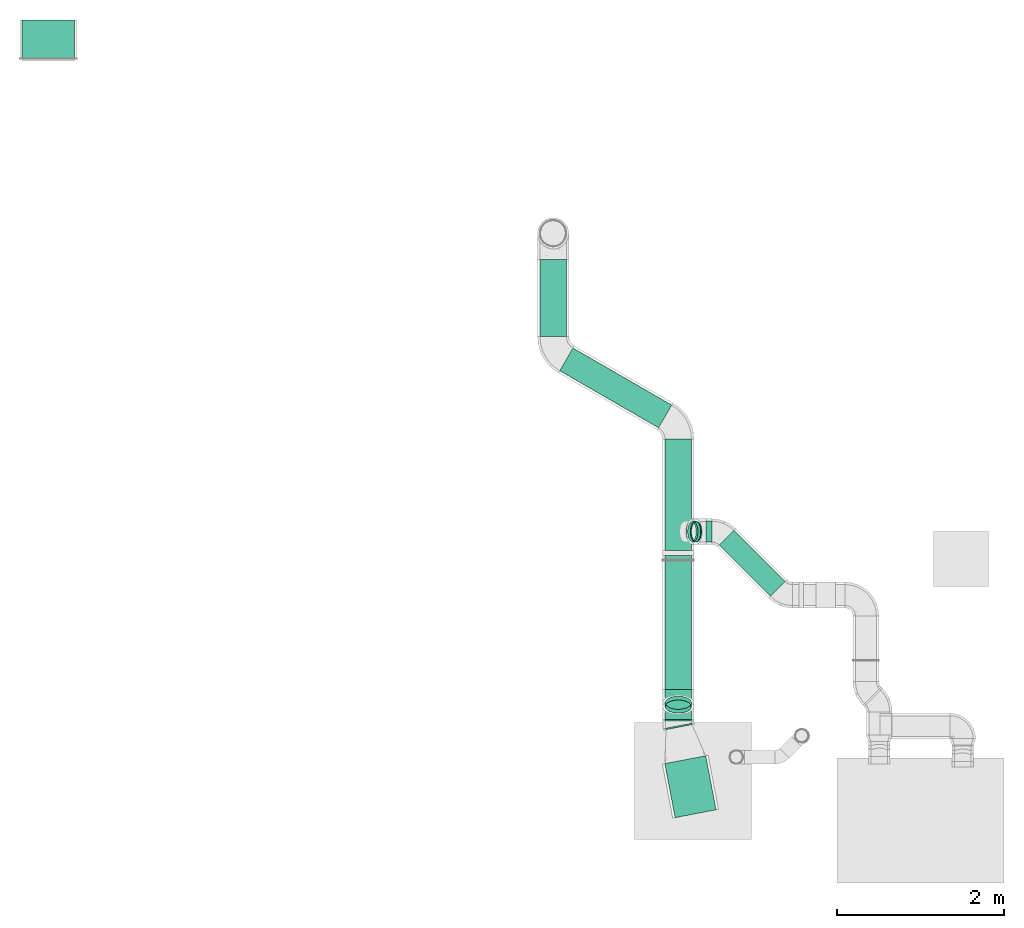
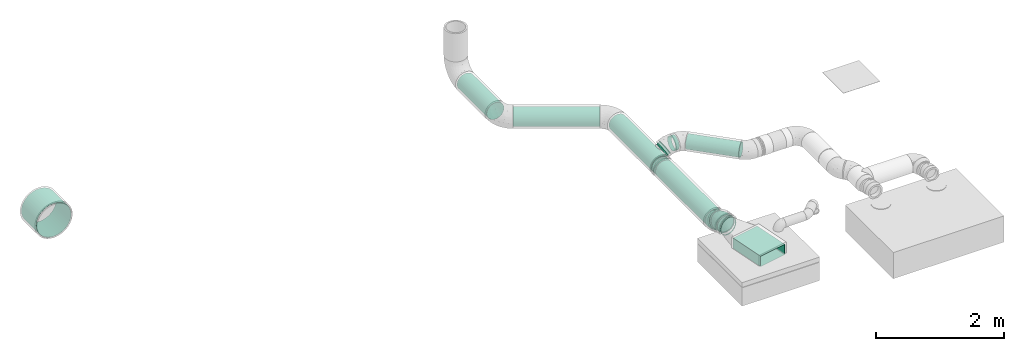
# One storey, part 10 of 21: 14 flow segments, 2 flow fittings.
"""IFC2X3 building model written with IfcOpenShell, lengths in millimetres."""

from ifc_helpers import new_model, entity, si_unit, converted_unit, derived_unit, direction, frame, origin_with_axes, origin_2d_with_axis, place, context, subcontext, project, spatial, hollow_rectangle, hollow_circle, extrude, open_shell, surface_model, source, transform, mapped, type_object, element, save


model = new_model("IFC2X3")

# Units and contexts
model_context = context("Model", 3, precision=0.01, world=frame((0.0, 4.29681676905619e-09, 0.0)), true_north=direction((4.01073788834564e-13, 1.0)))
plan_context = context("Plan", 3, precision=0.01, world=frame((0.0, 4.29681676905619e-09, 0.0)), true_north=direction((4.01073788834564e-13, 1.0)))
body_context = subcontext(model_context, "Body", "Model", "MODEL_VIEW")
ifc_project = project(units=[converted_unit("PLANEANGLEUNIT", "DEGREE", entity("IfcPositiveLengthMeasure", 0.0174532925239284), si_unit("PLANEANGLEUNIT", "RADIAN"), dimensions=[0, 0, 0, 0, 0, 0, 0]), si_unit("AREAUNIT", "SQUARE_METRE"), si_unit("LENGTHUNIT", "METRE", prefix="MILLI"), si_unit("MASSUNIT", "GRAM", prefix="KILO"), si_unit("POWERUNIT", "WATT"), si_unit("PRESSUREUNIT", "PASCAL"), si_unit("FORCEUNIT", "NEWTON", prefix="KILO"), si_unit("ELECTRICVOLTAGEUNIT", "VOLT"), si_unit("ELECTRICCURRENTUNIT", "AMPERE"), si_unit("THERMODYNAMICTEMPERATUREUNIT", "DEGREE_CELSIUS"), si_unit("TIMEUNIT", "SECOND"), si_unit("VOLUMEUNIT", "CUBIC_METRE"), derived_unit("LINEARVELOCITYUNIT", [(si_unit("LENGTHUNIT", "METRE"), 1), (si_unit("TIMEUNIT", "SECOND"), -1)]), derived_unit("VOLUMETRICFLOWRATEUNIT", [(si_unit("VOLUMEUNIT", "CUBIC_METRE"), 1), (si_unit("TIMEUNIT", "SECOND"), -1)]), derived_unit("THERMALTRANSMITTANCEUNIT", [(si_unit("POWERUNIT", "WATT"), 1), (si_unit("THERMODYNAMICTEMPERATUREUNIT", "KELVIN"), -1), (si_unit("AREAUNIT", "SQUARE_METRE"), -1)]), derived_unit("SOUNDPRESSUREUNIT", [(si_unit("PRESSUREUNIT", "PASCAL"), 1)])], contexts=[model_context, plan_context])

# Site, building, storey
site_placement = place(None, frame((0.0, -4.29681676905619e-09, 0.0), z_axis=(0.0, 0.0, 1.0), x_axis=(1.0, 0.0, 0.0)))
site = spatial("IfcSite", under=ifc_project, at=site_placement, Name="ENGM", CompositionType="ELEMENT")
building_placement = place(site_placement, frame((0.0, 4.29681676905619e-09, 0.0), z_axis=(0.0, 0.0, 1.0), x_axis=(1.0, 0.0, 0.0)))
building = spatial("IfcBuilding", under=site, at=building_placement, Name="TI", CompositionType="ELEMENT")
storey_placement = place(building_placement, frame((0.0, 0.0, 210900.0), z_axis=(0.0, 0.0, 1.0), x_axis=(1.0, 0.0, 0.0)))
storey = spatial("IfcBuildingStorey", under=building, at=storey_placement, Name="Nivå F", CompositionType="ELEMENT", Elevation=210900.0)

# Flow fittings
duct_fitting_type = type_object("IfcDuctFittingType", Name="magicirc_elbow_full_radius_001", PredefinedType="BEND")
shared_shape_1 = source(origin_with_axes(), body_context, "Body", "SurfaceModel", [
    surface_model("IfcShellBasedSurfaceModel", [(-84.404, 78.75, -136.39901), (-84.404, 40.764, -152.13332), (-84.404, 0.0, -157.5), (-84.404, 136.39901, -78.75), (-84.404, -40.764, -152.13332), (-84.404, 111.36932, -111.36932), (-84.404, -157.5, 0.0), (-84.404, -152.13332, 40.764), (-84.404, -111.36932, -111.36932), (-84.404, -152.13332, -40.764), (-84.404, -78.75, -136.39901), (-84.404, -136.39901, -78.75), (-84.404, 152.13332, -40.764), (-84.404, 157.5, 0.0), (-84.404, 152.13332, 40.764), (-84.404, 136.39901, 78.75), (-84.404, 111.36932, 111.36932), (-84.404, 78.75, 136.39901), (-84.404, 40.764, 152.13332), (-84.404, -111.36932, 111.36932), (-84.404, -78.75, 136.39901), (-84.404, -136.39901, 78.75), (-84.404, 0.0, 157.5), (-84.404, -40.764, 152.13332), (4.8965, 160.32701, -78.75), (73.09601, 42.202, -157.5), (52.71401, 77.50465, -152.13332), (33.721, 110.4015, -136.39901), (112.47101, -25.9975, -136.39901), (17.41135, 138.65066, -111.36932), (33.721, 110.4015, 136.39901), (149.16266, -89.54932, -40.764), (128.78067, -54.24666, -111.36932), (93.47801, 6.89934, -152.13332), (141.29551, -75.923, -78.75), (141.29551, -75.923, 78.75), (151.846, -94.197, 0.0), (-2.97065, 173.95332, -40.764), (-5.654, 178.601, 0.0), (-2.97065, 173.95332, 40.764), (4.8965, 160.32701, 78.75), (17.41135, 138.65066, 111.36932), (112.47101, -25.9975, 136.39901), (52.71401, 77.50465, 152.13332), (128.78067, -54.24666, 111.36932), (149.16266, -89.54932, 40.764), (73.09601, 42.202, 157.5), (93.47801, 6.89934, 152.13332), (89.37925, -92.15066, 92.20703), (-22.73037, -153.45769, 0.0), (-40.59784, -152.51267, 30.28688), (-31.32937, -124.49444, 92.20703), (30.98227, -115.62747, 87.70865), (-20.41785, -95.24437, 121.51269), (-16.0084, -142.62772, 54.66107), (-38.8485, -61.19939, 143.93386), (14.79364, -55.21063, 141.93458), (-28.53977, -20.96656, 155.40896), (-6.27623, 23.42321, 156.95112), (-49.89245, 19.30513, 156.54722), (85.17753, -115.51503, 54.66106), (-37.54999, 60.16585, 147.24833), (4.64344, -147.01213, 24.92468), (-26.40679, 98.55149, 128.60998), (64.24348, -33.57598, 143.93386), (35.19944, -3.8877, 155.40896), (-43.46124, 126.56253, 99.40695), (-40.03698, 149.42004, 64.74038), (-38.5862, 160.63669, 33.11008), (21.76317, -81.22128, 125.47313), (65.30455, -72.27512, 121.51269), (35.57959, -132.78489, 52.24872), (25.10961, 48.25387, 155.22924), (8.22482, 73.66369, 147.0178), (101.8984, -116.27706, 29.05826), (64.32541, -131.11503, 26.50225), (-43.64, 162.86668, 0.0), (37.888, -141.39995, 0.0), (96.41393, -121.53308, 0.0), (85.17753, -115.51503, -54.66107), (65.30456, -72.27512, -121.51269), (-45.8725, 29.23427, -155.22926), (-43.95476, 59.68221, -147.0178), (-28.53977, -20.96657, -155.40896), (-25.64273, 131.33699, -99.40695), (21.76318, -81.22129, -125.47312), (30.98229, -115.62747, -87.70864), (-20.41785, -95.24438, -121.51269), (-40.03698, 149.42004, -64.74038), (35.19945, -3.8877, -155.40896), (111.41509, -111.78093, -30.28689), (69.48472, -129.63796, -24.92468), (2.4363, 70.88014, -147.24833), (-46.90172, 158.40855, -33.11008), (-31.32937, -124.49444, -92.20703), (-6.27623, 23.4232, -156.95112), (-30.10807, -151.64808, -29.05826), (89.37925, -92.15067, -92.20703), (35.5796, -132.78488, -52.24872), (9.85007, -145.71165, -26.50225), (-16.00839, -142.62771, -54.66107), (33.55556, 41.66495, -156.54722), (-38.8485, -61.19939, -143.93386), (14.79365, -55.21064, -141.93457), (-26.4068, 98.55149, -128.60998), (64.24348, -33.57598, -143.93386)], [open_shell([[[0, 1, 2]], [[3, 0, 2]], [[4, 3, 2]], [[5, 0, 3]], [[3, 6, 7]], [[8, 9, 10]], [[4, 10, 6]], [[11, 9, 8]], [[6, 10, 9]], [[6, 3, 4]], [[7, 12, 3]], [[13, 7, 14]], [[15, 14, 16]], [[17, 16, 7]], [[7, 16, 14]], [[7, 18, 17]], [[19, 20, 21]], [[7, 21, 22]], [[23, 22, 20]], [[21, 20, 22]], [[22, 18, 7]], [[12, 7, 13]], [[24, 25, 26]], [[24, 26, 27]], [[25, 24, 28]], [[24, 27, 29]], [[24, 30, 31]], [[28, 31, 32]], [[28, 33, 25]], [[32, 31, 34]], [[24, 31, 28]], [[31, 35, 36]], [[24, 37, 38]], [[39, 40, 24]], [[40, 41, 24]], [[30, 42, 31]], [[24, 41, 30]], [[43, 42, 30]], [[35, 42, 44]], [[45, 36, 35]], [[42, 46, 47]], [[35, 31, 42]], [[46, 42, 43]], [[38, 39, 24]], [[44, 48, 35]], [[6, 49, 50]], [[51, 52, 53]], [[7, 54, 21]], [[55, 53, 56]], [[19, 51, 53]], [[22, 23, 57]], [[23, 20, 55]], [[57, 58, 59]], [[20, 19, 53]], [[48, 52, 60]], [[17, 18, 61]], [[54, 50, 62]], [[16, 17, 63]], [[56, 64, 65]], [[15, 66, 67]], [[18, 22, 59]], [[19, 21, 51]], [[56, 65, 57]], [[67, 68, 14]], [[69, 52, 70]], [[13, 14, 68]], [[14, 15, 67]], [[15, 16, 66]], [[63, 17, 61]], [[58, 57, 65]], [[62, 71, 54]], [[55, 57, 23]], [[44, 42, 70]], [[7, 50, 54]], [[45, 35, 60]], [[46, 72, 65]], [[43, 73, 72]], [[45, 74, 36]], [[42, 47, 64]], [[64, 70, 42]], [[30, 41, 63]], [[44, 70, 48]], [[74, 60, 75]], [[52, 54, 71]], [[21, 54, 51]], [[41, 40, 66]], [[59, 61, 18]], [[67, 39, 68]], [[58, 72, 73]], [[76, 68, 38]], [[53, 69, 56]], [[63, 61, 73]], [[52, 48, 70]], [[30, 73, 43]], [[60, 35, 48]], [[40, 67, 66]], [[46, 65, 47]], [[52, 51, 54]], [[16, 63, 66]], [[60, 71, 75]], [[41, 66, 63]], [[40, 39, 67]], [[63, 73, 30]], [[58, 73, 61]], [[53, 55, 20]], [[57, 55, 56]], [[65, 64, 47]], [[70, 64, 56]], [[65, 72, 58]], [[46, 43, 72]], [[57, 59, 22]], [[61, 59, 58]], [[6, 50, 7]], [[62, 50, 49]], [[49, 77, 62]], [[75, 71, 62]], [[75, 62, 77]], [[52, 71, 60]], [[77, 78, 75]], [[74, 75, 78]], [[36, 74, 78]], [[45, 60, 74]], [[52, 69, 53]], [[70, 56, 69]], [[38, 68, 39]], [[68, 76, 13]], [[31, 79, 34]], [[28, 32, 80]], [[81, 1, 82]], [[2, 83, 4]], [[84, 5, 3]], [[85, 86, 87]], [[88, 84, 3]], [[25, 33, 89]], [[0, 82, 1]], [[79, 90, 91]], [[27, 26, 92]], [[93, 88, 12]], [[8, 87, 94]], [[95, 89, 83]], [[6, 9, 96]], [[86, 97, 79]], [[98, 99, 100]], [[24, 29, 84]], [[8, 10, 87]], [[96, 100, 99]], [[101, 92, 26]], [[100, 9, 11]], [[102, 10, 4]], [[8, 94, 11]], [[94, 86, 100]], [[103, 83, 89]], [[13, 76, 93]], [[5, 84, 104]], [[38, 37, 93]], [[34, 79, 97]], [[32, 34, 97]], [[88, 3, 12]], [[0, 5, 104]], [[92, 82, 104]], [[27, 92, 104]], [[102, 87, 10]], [[81, 83, 2]], [[84, 88, 24]], [[31, 90, 79]], [[101, 26, 25]], [[105, 33, 28]], [[29, 27, 104]], [[32, 97, 80]], [[103, 105, 80]], [[86, 79, 98]], [[95, 101, 89]], [[97, 86, 80]], [[103, 102, 83]], [[78, 90, 36]], [[95, 81, 82]], [[37, 24, 88]], [[98, 79, 91]], [[80, 85, 103]], [[105, 89, 33]], [[100, 11, 94]], [[37, 88, 93]], [[29, 104, 84]], [[86, 94, 87]], [[104, 82, 0]], [[95, 82, 92]], [[83, 102, 4]], [[87, 102, 103]], [[80, 105, 28]], [[89, 105, 103]], [[83, 81, 95]], [[2, 1, 81]], [[89, 101, 25]], [[92, 101, 95]], [[36, 90, 31]], [[91, 90, 78]], [[78, 77, 91]], [[99, 98, 91]], [[99, 91, 77]], [[86, 98, 100]], [[77, 49, 99]], [[96, 99, 49]], [[6, 96, 49]], [[9, 100, 96]], [[86, 85, 80]], [[87, 103, 85]], [[13, 93, 12]], [[93, 76, 38]]])]),
])
for number, where, z_axis, x_axis, name in (
    (1, (607319.79165, 691355.17878, 2556.77914), (1.0, 0.0, 0.0), (0.0, -0.866025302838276, 0.500000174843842), "magicirc_elbow_full_radius_001"),
    (2, (607319.79165, 691545.70437, 2446.77914), (-1.0, 0.0, 0.0), (0.0, -1.0, 0.0), "magicirc_elbow_full_radius_001"),
):
    element("IfcFlowFitting", number, at=place(storey_placement, frame(where, z_axis=z_axis, x_axis=x_axis)), inside=storey, type_object=duct_fitting_type, Name=name, context=body_context, shape_type="MappedRepresentation", body=[
        mapped(shared_shape_1, transform((0.0, 0.0, 0.0), scale=1.0)),
    ])

# Flow segments
duct_segment_type_1 = type_object("IfcDuctSegmentType", Name="2 - Spiro kanaler, Forsinket stål", PredefinedType="RIGIDSEGMENT")
shared_shape_2 = source(origin_with_axes(), body_context, "Body", "SweptSolid", [
    extrude(hollow_circle(Radius=315.0, WallThickness=2.0, at=origin_2d_with_axis()), frame((0.0, 0.0, 0.0), z_axis=(1.0, 0.0, 0.0), x_axis=(0.0, 1.0, 0.0)), (0.0, 0.0, 1.0), 464.2),
])
flow_segment_1_placement = place(storey_placement, frame((599767.06731, 699195.62991, 463.400699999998), z_axis=(-1.999999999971e-06, 4.9999999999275e-06, 0.9999999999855), x_axis=(-2.1999999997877e-11, 0.9999999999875, -4.9999999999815e-06)))
element("IfcFlowSegment", 3, at=flow_segment_1_placement, inside=storey, type_object=duct_segment_type_1, Name="2 - Spiro kanaler, Forsinket stål", context=body_context, shape_type="MappedRepresentation", body=[
    mapped(shared_shape_2, transform((0.0, 0.0, 0.0), scale=1.0)),
])
shared_shape_3 = source(origin_with_axes(), body_context, "Body", "SweptSolid", [
    extrude(hollow_circle(Radius=157.5, WallThickness=2.0, at=origin_2d_with_axis()), frame((0.0, 0.0, 0.0), z_axis=(1.0, 0.0, 0.0), x_axis=(0.0, 1.0, 0.0)), (0.0, 0.0, 1.0), 923.1),
])
flow_segment_2_placement = place(storey_placement, frame((605819.77046, 696786.72271, 2446.77402000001), z_axis=(0.0, 0.0, 1.0), x_axis=(0.0, -1.0, 0.0)))
element("IfcFlowSegment", 4, at=flow_segment_2_placement, inside=storey, type_object=duct_segment_type_1, Name="2 - Spiro kanaler, Forsinket stål", context=body_context, shape_type="MappedRepresentation", body=[
    mapped(shared_shape_3, transform((0.0, 0.0, 0.0), scale=1.0)),
])
shared_shape_4 = source(origin_with_axes(), body_context, "Body", "SweptSolid", [
    extrude(hollow_circle(Radius=157.5, WallThickness=2.0, at=origin_2d_with_axis()), frame((0.0, 0.0, 0.0), z_axis=(1.0, 0.0, 0.0), x_axis=(0.0, 1.0, 0.0)), (0.0, 0.0, 1.0), 1368.3),
])
flow_segment_3_placement = place(storey_placement, frame((605977.27046, 695590.79004, 2446.77402000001), z_axis=(0.0, 0.0, 1.0), x_axis=(0.866025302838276, -0.500000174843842, 0.0)))
element("IfcFlowSegment", 5, at=flow_segment_3_placement, inside=storey, type_object=duct_segment_type_1, Name="2 - Spiro kanaler, Forsinket stål", context=body_context, shape_type="MappedRepresentation", body=[
    mapped(shared_shape_4, transform((0.0, 0.0, 0.0), scale=1.0)),
])
shared_shape_5 = source(origin_with_axes(), body_context, "Body", "SweptSolid", [
    extrude(hollow_circle(Radius=125.0, WallThickness=2.0, at=origin_2d_with_axis()), frame((0.0, 0.0, 0.0), z_axis=(1.0, 0.0, 0.0), x_axis=(0.0, 1.0, 0.0)), (0.0, 0.0, 1.0), 76.7),
])
flow_segment_4_placement = place(storey_placement, frame((607473.51367, 693525.29135, 2535.52478000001), z_axis=(-0.500000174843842, 0.0, 0.866025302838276), x_axis=(0.866025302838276, 0.0, 0.500000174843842)))
element("IfcFlowSegment", 6, at=flow_segment_4_placement, inside=storey, type_object=duct_segment_type_1, Name="2 - Spiro kanaler, Forsinket stål", context=body_context, shape_type="MappedRepresentation", body=[
    mapped(shared_shape_5, transform((0.0, 0.0, 0.0), scale=1.0)),
])
shared_shape_6 = source(origin_with_axes(), body_context, "Body", "SweptSolid", [
    extrude(hollow_circle(Radius=125.0, WallThickness=2.0, at=origin_2d_with_axis()), frame((0.0, 0.0, 0.0), z_axis=(1.0, 0.0, 0.0), x_axis=(0.0, 1.0, 0.0)), (0.0, 0.0, 1.0), 38.0),
])
flow_segment_5_placement = place(storey_placement, frame((607527.17533, 693525.29135, 2566.50633999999), z_axis=(-0.500000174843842, 0.0, 0.866025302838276), x_axis=(-0.866025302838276, 0.0, -0.500000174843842)))
element("IfcFlowSegment", 7, at=flow_segment_5_placement, inside=storey, type_object=duct_segment_type_1, Name="2 - Spiro kanaler, Forsinket stål", context=body_context, shape_type="MappedRepresentation", body=[
    mapped(shared_shape_6, transform((0.0, 0.0, 0.0), scale=1.0)),
])
shared_shape_7 = source(origin_with_axes(), body_context, "Body", "SweptSolid", [
    extrude(hollow_circle(Radius=157.5, WallThickness=2.0, at=origin_2d_with_axis()), frame((0.0, 0.0, 0.0), z_axis=(1.0, 0.0, 0.0), x_axis=(0.0, 1.0, 0.0)), (0.0, 0.0, 1.0), 1336.6),
])
flow_segment_6_placement = place(storey_placement, frame((607319.79165, 694633.81974, 2446.77914), z_axis=(0.0, 0.0, 1.0), x_axis=(0.0, -1.0, 0.0)))
element("IfcFlowSegment", 8, at=flow_segment_6_placement, inside=storey, type_object=duct_segment_type_1, Name="2 - Spiro kanaler, Forsinket stål", context=body_context, shape_type="MappedRepresentation", body=[
    mapped(shared_shape_7, transform((0.0, 0.0, 0.0), scale=1.0)),
])
shared_shape_8 = source(origin_with_axes(), body_context, "Body", "SweptSolid", [
    extrude(hollow_circle(Radius=125.0, WallThickness=2.0, at=origin_2d_with_axis()), frame((0.0, 0.0, 0.0), z_axis=(1.0, 0.0, 0.0), x_axis=(0.0, 1.0, 0.0)), (0.0, 0.0, 1.0), 867.7),
])
flow_segment_7_placement = place(storey_placement, frame((608512.376, 692838.51465, 2600.0), z_axis=(0.0, 0.0, 1.0), x_axis=(-0.707106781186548, 0.707106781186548, 0.0)))
element("IfcFlowSegment", 9, at=flow_segment_7_placement, inside=storey, type_object=duct_segment_type_1, Name="2 - Spiro kanaler, Forsinket stål", context=body_context, shape_type="MappedRepresentation", body=[
    mapped(shared_shape_8, transform((0.0, 0.0, 0.0), scale=1.0)),
])
shared_shape_9 = source(origin_with_axes(), body_context, "Body", "SweptSolid", [
    extrude(hollow_circle(Radius=125.0, WallThickness=2.0, at=origin_2d_with_axis()), frame((0.0, 0.0, 0.0), z_axis=(1.0, 0.0, 0.0), x_axis=(0.0, 1.0, 0.0)), (0.0, 0.0, 1.0), 69.9),
])
flow_segment_8_placement = place(storey_placement, frame((607652.17535, 693525.29135, 2600.0), z_axis=(0.0, 0.0, 1.0), x_axis=(1.0, 0.0, 0.0)))
element("IfcFlowSegment", 10, at=flow_segment_8_placement, inside=storey, type_object=duct_segment_type_1, Name="2 - Spiro kanaler, Forsinket stål", context=body_context, shape_type="MappedRepresentation", body=[
    mapped(shared_shape_9, transform((0.0, 0.0, 0.0), scale=1.0)),
])
duct_segment_type_2 = type_object("IfcDuctSegmentType", Name="KK002T - Rektangulære, Forsinket stål", PredefinedType="RIGIDSEGMENT")
shared_shape_10 = source(origin_with_axes(), body_context, "Body", "SweptSolid", [
    extrude(hollow_rectangle(XDim=500.0, YDim=200.0, WallThickness=2.0, at=origin_2d_with_axis()), frame((0.0, 0.0, 0.0), z_axis=(1.0, 0.0, 0.0), x_axis=(0.0, 1.0, 0.0)), (0.0, 0.0, 1.0), 660.0),
])
flow_segment_9_placement = place(storey_placement, frame((607402.98574, 690791.51807, 2556.76615000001), z_axis=(5.0821976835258e-21, 1.5999999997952e-05, 0.999999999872), x_axis=(0.18840604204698, -0.982091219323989, 1.57134595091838e-05)))
element("IfcFlowSegment", 11, at=flow_segment_9_placement, inside=storey, type_object=duct_segment_type_2, Name="KK002T - Rektangulære, Forsinket stål", context=body_context, shape_type="MappedRepresentation", body=[
    mapped(shared_shape_10, transform((0.0, 0.0, 0.0), scale=1.0)),
])
shared_shape_11 = source(origin_with_axes(), body_context, "Body", "SweptSolid", [
    extrude(hollow_circle(Radius=157.5, WallThickness=2.0, at=origin_2d_with_axis()), frame((0.0, 0.0, 0.0), z_axis=(1.0, 0.0, 0.0), x_axis=(0.0, 1.0, 0.0)), (0.0, 0.0, 1.0), 56.6),
])
flow_segment_10_placement = place(storey_placement, frame((607319.79165, 693242.22474, 2446.77914), z_axis=(0.0, 0.0, 1.0), x_axis=(0.0, -1.0, 0.0)))
element("IfcFlowSegment", 12, at=flow_segment_10_placement, inside=storey, type_object=duct_segment_type_1, Name="2 - Spiro kanaler, Forsinket stål", context=body_context, shape_type="MappedRepresentation", body=[
    mapped(shared_shape_11, transform((0.0, 0.0, 0.0), scale=1.0)),
])
shared_shape_12 = source(origin_with_axes(), body_context, "Body", "SweptSolid", [
    extrude(hollow_circle(Radius=157.5, WallThickness=2.0, at=origin_2d_with_axis()), frame((0.0, 0.0, 0.0), z_axis=(1.0, 0.0, 0.0), x_axis=(0.0, 1.0, 0.0)), (0.0, 0.0, 1.0), 1545.5),
])
flow_segment_11_placement = place(storey_placement, frame((607319.79165, 693175.62344, 2446.77914), z_axis=(0.0, 0.0, 1.0), x_axis=(0.0, -1.0, 0.0)))
element("IfcFlowSegment", 13, at=flow_segment_11_placement, inside=storey, type_object=duct_segment_type_1, Name="2 - Spiro kanaler, Forsinket stål", context=body_context, shape_type="MappedRepresentation", body=[
    mapped(shared_shape_12, transform((0.0, 0.0, 0.0), scale=1.0)),
])
shared_shape_13 = source(origin_with_axes(), body_context, "Body", "SweptSolid", [
    extrude(hollow_circle(Radius=157.5, WallThickness=2.0, at=origin_2d_with_axis()), frame((0.0, 0.0, 0.0), z_axis=(1.0, 0.0, 0.0), x_axis=(0.0, 1.0, 0.0)), (0.0, 0.0, 1.0), 11.6),
])
flow_segment_12_placement = place(storey_placement, frame((607327.62342, 691184.35457, 2556.76903), z_axis=(4.59999986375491e-05, -0.000238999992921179, 0.999999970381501), x_axis=(-0.188406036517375, 0.982091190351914, 0.000243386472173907)))
element("IfcFlowSegment", 14, at=flow_segment_12_placement, inside=storey, type_object=duct_segment_type_1, Name="2 - Spiro kanaler, Forsinket stål", context=body_context, shape_type="MappedRepresentation", body=[
    mapped(shared_shape_13, transform((0.0, 0.0, 0.0), scale=1.0)),
])
shared_shape_14 = source(origin_with_axes(), body_context, "Body", "SweptSolid", [
    extrude(hollow_circle(Radius=157.5, WallThickness=2.0, at=origin_2d_with_axis()), frame((0.0, 0.0, 0.0), z_axis=(1.0, 0.0, 0.0), x_axis=(0.0, 1.0, 0.0)), (0.0, 0.0, 1.0), 15.7),
])
flow_segment_13_placement = place(storey_placement, frame((607319.79165, 691255.12083, 2556.77914), z_axis=(0.0, 0.0, 1.0), x_axis=(0.0, 1.0, 0.0)))
element("IfcFlowSegment", 15, at=flow_segment_13_placement, inside=storey, type_object=duct_segment_type_1, Name="2 - Spiro kanaler, Forsinket stål", context=body_context, shape_type="MappedRepresentation", body=[
    mapped(shared_shape_14, transform((0.0, 0.0, 0.0), scale=1.0)),
])
shared_shape_15 = source(origin_with_axes(), body_context, "Body", "SweptSolid", [
    extrude(hollow_circle(Radius=157.5, WallThickness=2.0, at=origin_2d_with_axis()), frame((0.0, 0.0, 0.0), z_axis=(1.0, 0.0, 0.0), x_axis=(0.0, 1.0, 0.0)), (0.0, 0.0, 1.0), 51.2),
])
flow_segment_14_placement = place(storey_placement, frame((607319.79165, 691428.27479, 2514.57714000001), z_axis=(0.0, 0.500000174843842, 0.866025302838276), x_axis=(0.0, 0.866025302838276, -0.500000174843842)))
element("IfcFlowSegment", 16, at=flow_segment_14_placement, inside=storey, type_object=duct_segment_type_1, Name="2 - Spiro kanaler, Forsinket stål", context=body_context, shape_type="MappedRepresentation", body=[
    mapped(shared_shape_15, transform((0.0, 0.0, 0.0), scale=1.0)),
])

save(model, "model.ifc")
